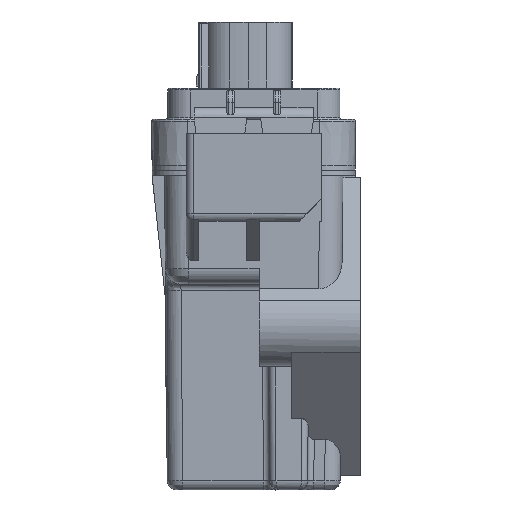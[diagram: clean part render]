
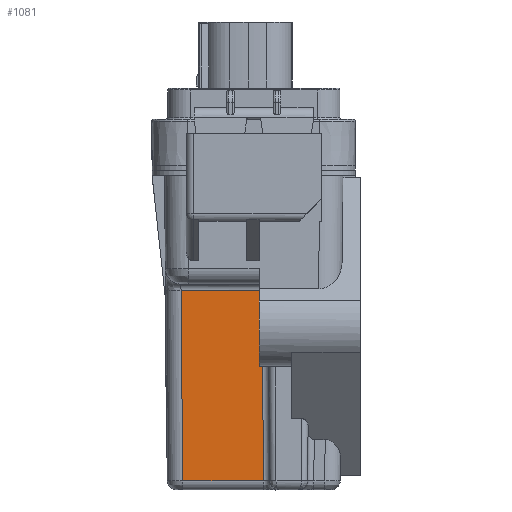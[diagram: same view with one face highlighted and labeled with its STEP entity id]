
A CAD part, left-side view. The second image highlights one B-rep face of the part: STEP entity #1081.
In plain terms, the highlighted planar face has unit normal (-1, 0.009, -0.009).
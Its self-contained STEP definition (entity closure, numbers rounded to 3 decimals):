
#1081 = ADVANCED_FACE ( 'NONE', ( #29850 ), #56013, .F. ) ;
#1238 = VECTOR ( 'NONE', #41420, 1000. ) ;
#2115 = CARTESIAN_POINT ( 'NONE',  ( -42.358, -1.511, -38.202 ) ) ;
#13196 = DIRECTION ( 'NONE',  ( 0.009, 1., 0. ) ) ;
#13401 = CARTESIAN_POINT ( 'NONE',  ( -42.36, -1.735, -38.207 ) ) ;
#23316 = ORIENTED_EDGE ( 'NONE', *, *, #43400, .T. ) ;
#26519 = LINE ( 'NONE', #27420, #1238 ) ;
#27420 = CARTESIAN_POINT ( 'NONE',  ( -42.442, -1.079, -28.183 ) ) ;
#28209 = CARTESIAN_POINT ( 'NONE',  ( -42.113, -1.985, -66.819 ) ) ;
#29211 = LINE ( 'NONE', #142830, #166797 ) ;
#29850 = FACE_OUTER_BOUND ( 'NONE', #121206, .T. ) ;
#36358 = CARTESIAN_POINT ( 'NONE',  ( -42.304, 14.746, -28.183 ) ) ;
#37179 = VECTOR ( 'NONE', #94919, 1000. ) ;
#37662 = CARTESIAN_POINT ( 'NONE',  ( -41.97, 14.409, -66.819 ) ) ;
#40607 = CARTESIAN_POINT ( 'NONE',  ( -42.355, -1.079, -38.19 ) ) ;
#40948 = LINE ( 'NONE', #165712, #37179 ) ;
#41344 = CARTESIAN_POINT ( 'NONE',  ( -42.356, -1.293, -38.196 ) ) ;
#41420 = DIRECTION ( 'NONE',  ( 0.009, 1., 0. ) ) ;
#41675 = ORIENTED_EDGE ( 'NONE', *, *, #183822, .F. ) ;
#43400 = EDGE_CURVE ( 'NONE', #77739, #133801, #26519, .T. ) ;
#44079 = CARTESIAN_POINT ( 'NONE',  ( -42.358, -1.452, -38.2 ) ) ;
#51384 = EDGE_CURVE ( 'NONE', #123625, #107036, #40948, .T. ) ;
#56013 = PLANE ( 'NONE',  #87686 ) ;
#56455 = EDGE_CURVE ( 'NONE', #156373, #107036, #107182, .T. ) ;
#58962 = CARTESIAN_POINT ( 'NONE',  ( -42.356, -1.222, -38.194 ) ) ;
#62043 = VECTOR ( 'NONE', #154163, 1000. ) ;
#64604 = CARTESIAN_POINT ( 'NONE',  ( -42.355, -1.079, -38.19 ) ) ;
#68374 = CARTESIAN_POINT ( 'NONE',  ( -42.36, -1.735, -38.207 ) ) ;
#72057 = DIRECTION ( 'NONE',  ( 0.009, 1., 0. ) ) ;
#74117 = ORIENTED_EDGE ( 'NONE', *, *, #93413, .F. ) ;
#77739 = VERTEX_POINT ( 'NONE', #142628 ) ;
#83875 = CARTESIAN_POINT ( 'NONE',  ( -42.286, 18.048, -26.924 ) ) ;
#84099 = CARTESIAN_POINT ( 'NONE',  ( -42.357, -1.323, -38.197 ) ) ;
#85005 = CARTESIAN_POINT ( 'NONE',  ( -42.359, -1.608, -38.204 ) ) ;
#87686 = AXIS2_PLACEMENT_3D ( 'NONE', #83875, #140737, #13196 ) ;
#93413 = EDGE_CURVE ( 'NONE', #123625, #118283, #29211, .T. ) ;
#94919 = DIRECTION ( 'NONE',  ( -0.009, 0.009, 1. ) ) ;
#98071 = CARTESIAN_POINT ( 'NONE',  ( -42.357, -1.337, -38.197 ) ) ;
#107036 = VERTEX_POINT ( 'NONE', #68374 ) ;
#107182 = B_SPLINE_CURVE_WITH_KNOTS ( 'NONE', 3,
 ( #142775, #112024, #58962, #41344, #168849, #84099, #98071, #140950, #44079, #2115, #115674, #85005, #112947, #143683, #130600, #13401 ),
 .UNSPECIFIED., .F., .F.,
 ( 4, 3, 3, 3, 3, 4 ),
 ( 0., 0.333, 0.401, 0.667, 0.886, 1. ),
 .UNSPECIFIED. ) ;
#112024 = CARTESIAN_POINT ( 'NONE',  ( -42.355, -1.15, -38.192 ) ) ;
#112947 = CARTESIAN_POINT ( 'NONE',  ( -42.36, -1.657, -38.205 ) ) ;
#115674 = CARTESIAN_POINT ( 'NONE',  ( -42.359, -1.559, -38.203 ) ) ;
#116561 = DIRECTION ( 'NONE',  ( -0.009, 0.009, 1. ) ) ;
#118283 = VERTEX_POINT ( 'NONE', #37662 ) ;
#121206 = EDGE_LOOP ( 'NONE', ( #142504, #23316, #41675, #74117, #164876, #157488 ) ) ;
#123625 = VERTEX_POINT ( 'NONE', #28209 ) ;
#130600 = CARTESIAN_POINT ( 'NONE',  ( -42.36, -1.709, -38.207 ) ) ;
#132395 = CARTESIAN_POINT ( 'NONE',  ( -41.97, 14.409, -66.819 ) ) ;
#133801 = VERTEX_POINT ( 'NONE', #36358 ) ;
#140737 = DIRECTION ( 'NONE',  ( 1., -0.009, 0.009 ) ) ;
#140950 = CARTESIAN_POINT ( 'NONE',  ( -42.357, -1.394, -38.199 ) ) ;
#142504 = ORIENTED_EDGE ( 'NONE', *, *, #168959, .T. ) ;
#142628 = CARTESIAN_POINT ( 'NONE',  ( -42.442, -1.079, -28.183 ) ) ;
#142775 = CARTESIAN_POINT ( 'NONE',  ( -42.355, -1.079, -38.19 ) ) ;
#142830 = CARTESIAN_POINT ( 'NONE',  ( -42.113, -1.985, -66.819 ) ) ;
#143683 = CARTESIAN_POINT ( 'NONE',  ( -42.36, -1.683, -38.206 ) ) ;
#154163 = DIRECTION ( 'NONE',  ( -0.009, 0., 1. ) ) ;
#156373 = VERTEX_POINT ( 'NONE', #64604 ) ;
#157488 = ORIENTED_EDGE ( 'NONE', *, *, #56455, .F. ) ;
#164876 = ORIENTED_EDGE ( 'NONE', *, *, #51384, .T. ) ;
#165712 = CARTESIAN_POINT ( 'NONE',  ( -42.113, -1.985, -66.819 ) ) ;
#166797 = VECTOR ( 'NONE', #72057, 1000. ) ;
#167905 = LINE ( 'NONE', #132395, #177044 ) ;
#168849 = CARTESIAN_POINT ( 'NONE',  ( -42.357, -1.308, -38.196 ) ) ;
#168959 = EDGE_CURVE ( 'NONE', #156373, #77739, #183865, .T. ) ;
#177044 = VECTOR ( 'NONE', #116561, 1000. ) ;
#183822 = EDGE_CURVE ( 'NONE', #118283, #133801, #167905, .T. ) ;
#183865 = LINE ( 'NONE', #40607, #62043 ) ;
